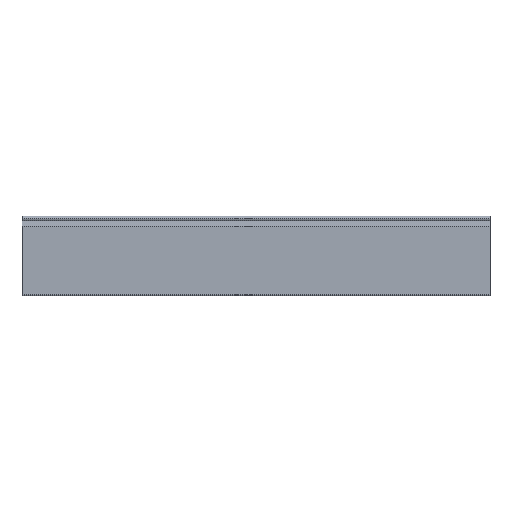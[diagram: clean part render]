
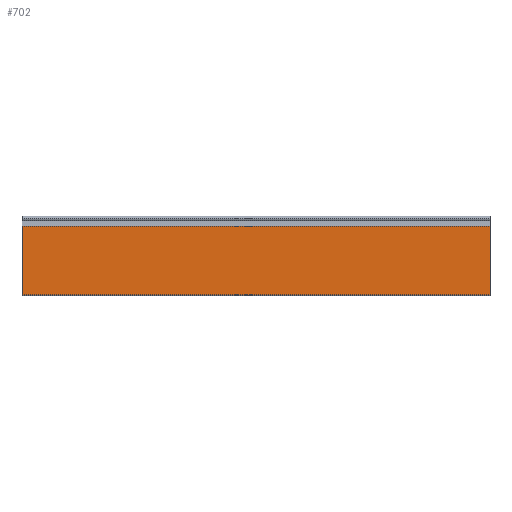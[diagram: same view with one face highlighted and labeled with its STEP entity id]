
A CAD part, top view. The second image highlights one B-rep face of the part: STEP entity #702.
In plain terms, the highlighted planar face has unit normal (0, 0, 1).
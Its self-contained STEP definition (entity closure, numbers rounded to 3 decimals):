
#18 = ORIENTED_EDGE ( 'NONE', *, *, #1262, .T. ) ;
#165 = CARTESIAN_POINT ( 'NONE',  ( 375., -12.164, 4.05 ) ) ;
#166 = DIRECTION ( 'NONE',  ( 0., -1., 0. ) ) ;
#296 = CARTESIAN_POINT ( 'NONE',  ( -375., -12.164, 4.05 ) ) ;
#309 = DIRECTION ( 'NONE',  ( 0., -1., 0. ) ) ;
#334 = CARTESIAN_POINT ( 'NONE',  ( 375., -12.164, 4.05 ) ) ;
#335 = DIRECTION ( 'NONE',  ( -1., 0., 0. ) ) ;
#352 = CARTESIAN_POINT ( 'NONE',  ( 375., -121.663, 4.05 ) ) ;
#353 = DIRECTION ( 'NONE',  ( -1., 0., 0. ) ) ;
#460 = ORIENTED_EDGE ( 'NONE', *, *, #1192, .F. ) ;
#461 = ORIENTED_EDGE ( 'NONE', *, *, #1271, .F. ) ;
#462 = ORIENTED_EDGE ( 'NONE', *, *, #1250, .T. ) ;
#504 = VERTEX_POINT ( 'NONE', #574 ) ;
#534 = VERTEX_POINT ( 'NONE', #604 ) ;
#546 = VERTEX_POINT ( 'NONE', #616 ) ;
#560 = VERTEX_POINT ( 'NONE', #630 ) ;
#574 = CARTESIAN_POINT ( 'NONE',  ( 375., -12.164, 4.05 ) ) ;
#604 = CARTESIAN_POINT ( 'NONE',  ( -375., -121.663, 4.05 ) ) ;
#616 = CARTESIAN_POINT ( 'NONE',  ( -375., -12.164, 4.05 ) ) ;
#630 = CARTESIAN_POINT ( 'NONE',  ( 375., -121.663, 4.05 ) ) ;
#682 = CARTESIAN_POINT ( 'NONE',  ( 375., -12.164, 4.05 ) ) ;
#683 = PLANE ( 'NONE',  #1306 ) ;
#685 = DIRECTION ( 'NONE',  ( 0., 0., -1. ) ) ;
#686 = DIRECTION ( 'NONE',  ( 0., 1., 0. ) ) ;
#702 = ADVANCED_FACE ( 'NONE', ( #1117 ), #683, .F. ) ;
#764 = VECTOR ( 'NONE', #309, 1000. ) ;
#773 = LINE ( 'NONE', #296, #764 ) ;
#792 = LINE ( 'NONE', #334, #793 ) ;
#793 = VECTOR ( 'NONE', #335, 1000. ) ;
#810 = LINE ( 'NONE', #352, #811 ) ;
#811 = VECTOR ( 'NONE', #353, 1000. ) ;
#922 = EDGE_LOOP ( 'NONE', ( #462, #461, #460, #18 ) ) ;
#1117 = FACE_OUTER_BOUND ( 'NONE', #922, .T. ) ;
#1136 = VECTOR ( 'NONE', #166, 1000. ) ;
#1137 = LINE ( 'NONE', #165, #1136 ) ;
#1192 = EDGE_CURVE ( 'NONE', #504, #560, #1137, .T. ) ;
#1250 = EDGE_CURVE ( 'NONE', #546, #534, #773, .T. ) ;
#1262 = EDGE_CURVE ( 'NONE', #504, #546, #792, .T. ) ;
#1271 = EDGE_CURVE ( 'NONE', #560, #534, #810, .T. ) ;
#1306 = AXIS2_PLACEMENT_3D ( 'NONE', #682, #685, #686 ) ;
